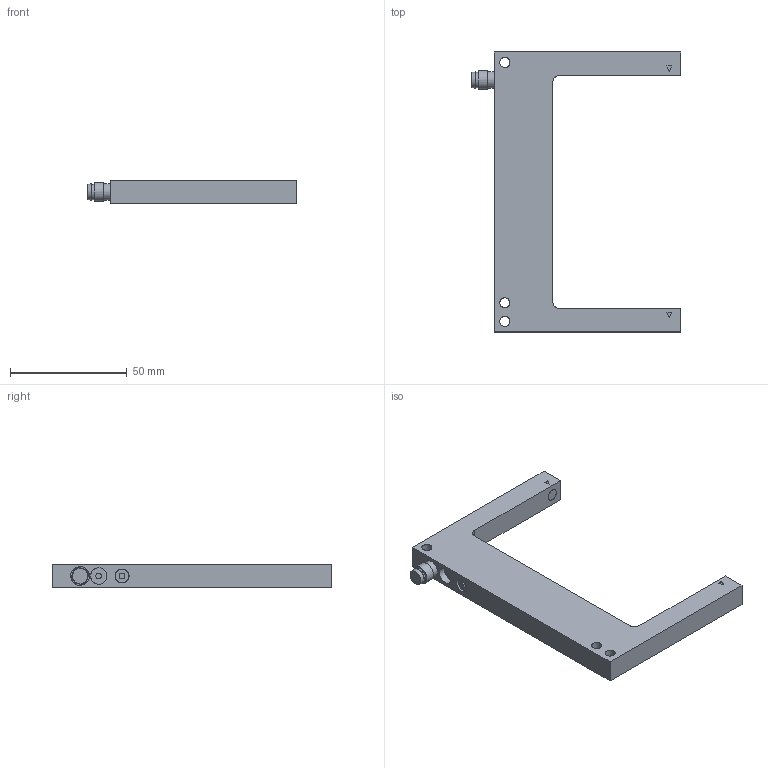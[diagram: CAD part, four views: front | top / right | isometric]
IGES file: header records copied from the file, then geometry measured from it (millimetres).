
Global section: file name: H:\lem\3DCAD_GS04B_x_1_100_M8_3.igs; native system: NX V11.0; preprocessor: SIEMENS PLM Software NX 11.0; date: 20210426.095911; units: millimetre
Bounding box: 90 x 120 x 10 mm (x, y, z)
Surface area: 13996.2 mm2 (no closed solid volume)
Topology: 0 solids, 0 shells, 46 faces, 408 edges, 408 vertices
Faces by surface type: bspline 46
